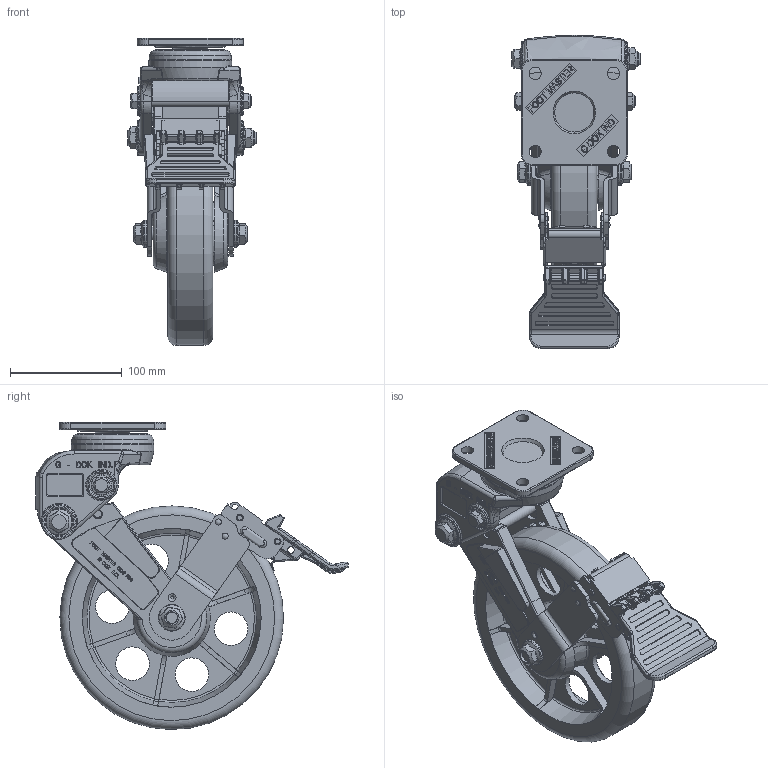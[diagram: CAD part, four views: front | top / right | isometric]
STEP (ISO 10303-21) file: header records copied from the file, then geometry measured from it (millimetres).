
FILE_DESCRIPTION((''),'2;1');
FILE_NAME('C:\Documents and Settings\Administrator\바탕 화면\3D STEP\GDS-SERIES\GDS-200\GDS-200B-SF.stp','2010-12-27T13:56:07',('Administrator'),(''),'Autodesk Inventor 2009','Autodesk Inventor 2009','');
FILE_SCHEMA(('AUTOMOTIVE_DESIGN { 1 0 10303 214 1 1 1 1 }'));
Length unit declared in the file: millimetre
Products named in the file (1): GDS-200B-SF
Bounding box: 114.5 x 279.91 x 274.64 mm (x, y, z)
Volume: 1357119.6 mm3; surface area: 341023.9 mm2
Topology: 13 solids, 13 shells, 4873 faces, 13357 edges, 8627 vertices
Faces by surface type: plane 2359, bspline 1388, cylinder 813, torus 149, cone 104, sphere 60
Full cylindrical faces by diameter (mm): 3 x3, 4 x6, 4.1 x3, 4.2 x7, 4.8 x2, 6 x2, 7.5 x2, 8 x4, 10 x4, 10.7 x2, 11 x4, 12 x4, 12.1 x2, 12.2 x2, 15 x4, 15.1 x2, 18 x1, 18.6 x2, 20 x2, 20.4 x2, 21.667 x4, 24 x4, 26 x2, 27 x2, 28.333 x4, 29 x1, 30 x7, 30.6 x1, 31 x2, 35 x2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
Entity records: 182000 total; most frequent: CARTESIAN_POINT 68139, ORIENTED_EDGE 25950, DIRECTION 19529, EDGE_CURVE 12975, VERTEX_POINT 8539, VECTOR 7703, LINE 7703, AXIS2_PLACEMENT_3D 5913
